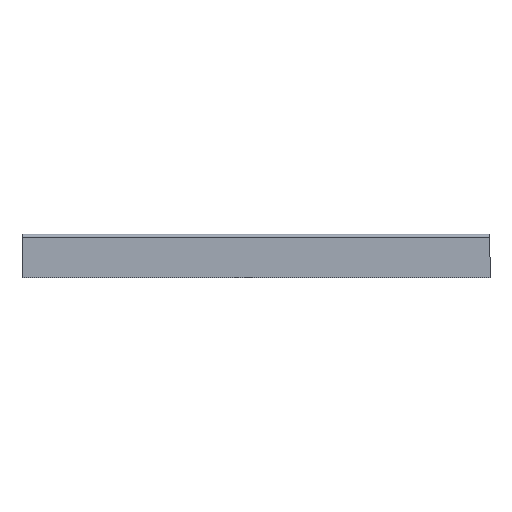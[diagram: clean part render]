
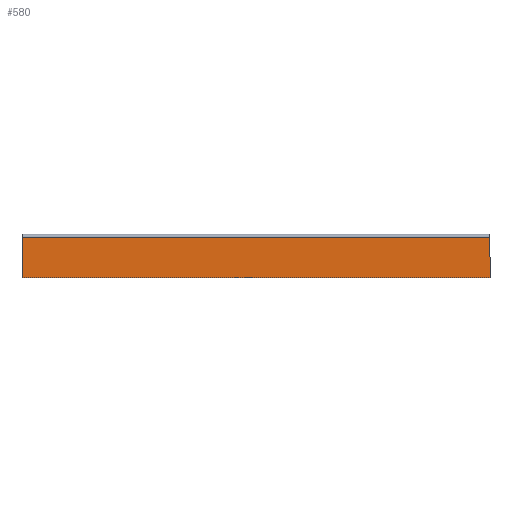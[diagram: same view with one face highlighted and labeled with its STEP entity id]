
A CAD part, left-side view. The second image highlights one B-rep face of the part: STEP entity #580.
In plain terms, the highlighted planar face has unit normal (-1, 0, 0).
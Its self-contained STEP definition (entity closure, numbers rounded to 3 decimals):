
#14 = CARTESIAN_POINT ( 'NONE',  ( -100., 479., 0. ) ) ;
#16 = CARTESIAN_POINT ( 'NONE',  ( -100., 0., 37. ) ) ;
#82 = CARTESIAN_POINT ( 'NONE',  ( -100., 0., 0. ) ) ;
#89 = DIRECTION ( 'NONE',  ( 0., -1., 0. ) ) ;
#90 = CARTESIAN_POINT ( 'NONE',  ( -100., 429., 0. ) ) ;
#91 = CARTESIAN_POINT ( 'NONE',  ( -100., 479., 37. ) ) ;
#136 = CARTESIAN_POINT ( 'NONE',  ( -100., 429., 37. ) ) ;
#228 = DIRECTION ( 'NONE',  ( 0., 0., 1. ) ) ;
#237 = CARTESIAN_POINT ( 'NONE',  ( -100., 0., 0. ) ) ;
#298 = DIRECTION ( 'NONE',  ( 0., 0., 1. ) ) ;
#317 = CARTESIAN_POINT ( 'NONE',  ( -100., 429., 10. ) ) ;
#393 = DIRECTION ( 'NONE',  ( 0., -1., 0. ) ) ;
#437 = VERTEX_POINT ( 'NONE', #136 ) ;
#455 = VERTEX_POINT ( 'NONE', #90 ) ;
#456 = VERTEX_POINT ( 'NONE', #82 ) ;
#496 = VERTEX_POINT ( 'NONE', #16 ) ;
#500 = DIRECTION ( 'NONE',  ( 0., 0., 1. ) ) ;
#502 = DIRECTION ( 'NONE',  ( -1., 0., 0. ) ) ;
#521 = CARTESIAN_POINT ( 'NONE',  ( -100., 479., 0. ) ) ;
#524 = PLANE ( 'NONE',  #1128 ) ;
#580 = ADVANCED_FACE ( 'NONE', ( #661 ), #524, .T. ) ;
#609 = ORIENTED_EDGE ( 'NONE', *, *, #1199, .T. ) ;
#661 = FACE_OUTER_BOUND ( 'NONE', #1300, .T. ) ;
#726 = ORIENTED_EDGE ( 'NONE', *, *, #1186, .F. ) ;
#802 = VECTOR ( 'NONE', #298, 1000. ) ;
#817 = LINE ( 'NONE', #317, #802 ) ;
#839 = LINE ( 'NONE', #14, #855 ) ;
#855 = VECTOR ( 'NONE', #393, 1000. ) ;
#865 = VECTOR ( 'NONE', #89, 1000. ) ;
#890 = LINE ( 'NONE', #91, #865 ) ;
#918 = VECTOR ( 'NONE', #228, 1000. ) ;
#928 = LINE ( 'NONE', #237, #918 ) ;
#953 = ORIENTED_EDGE ( 'NONE', *, *, #1164, .T. ) ;
#1128 = AXIS2_PLACEMENT_3D ( 'NONE', #521, #502, #500 ) ;
#1164 = EDGE_CURVE ( 'NONE', #456, #496, #928, .T. ) ;
#1186 = EDGE_CURVE ( 'NONE', #437, #496, #890, .T. ) ;
#1199 = EDGE_CURVE ( 'NONE', #455, #456, #839, .T. ) ;
#1214 = EDGE_CURVE ( 'NONE', #455, #437, #817, .T. ) ;
#1286 = ORIENTED_EDGE ( 'NONE', *, *, #1214, .F. ) ;
#1300 = EDGE_LOOP ( 'NONE', ( #1286, #609, #953, #726 ) ) ;
